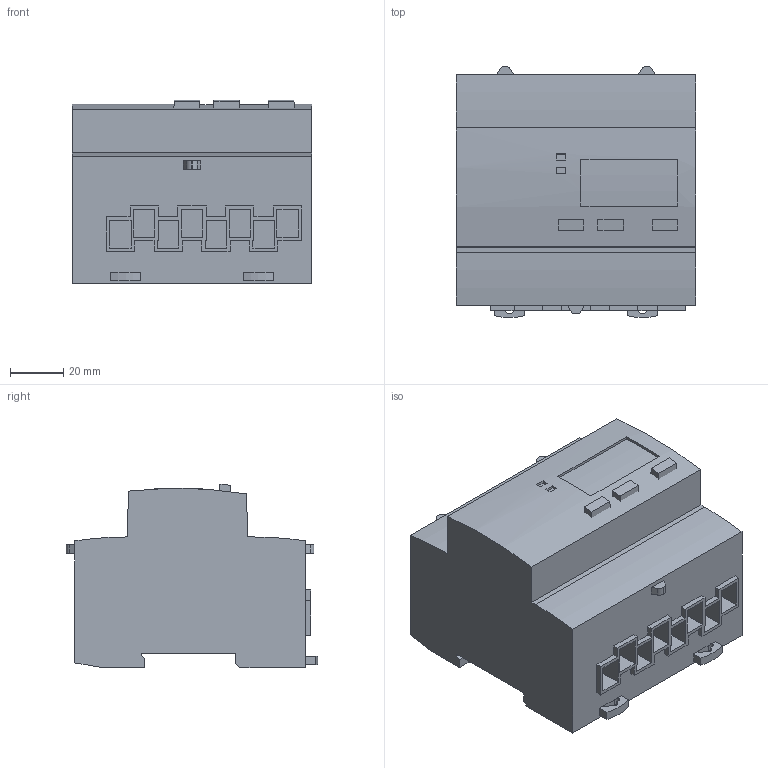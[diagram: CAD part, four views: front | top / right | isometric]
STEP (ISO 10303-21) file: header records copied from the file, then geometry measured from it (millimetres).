
FILE_DESCRIPTION((''),'2;1');
FILE_NAME('SB103707_3D-SIMPLIFIED_ASM','2011-10-17T',('quickadmin'),(''),'PRO/ENGINEER BY PARAMETRIC TECHNOLOGY CORPORATION, 2006170','PRO/ENGINEER BY PARAMETRIC TECHNOLOGY CORPORATION, 2006170','');
FILE_SCHEMA(('CONFIG_CONTROL_DESIGN'));
Length unit declared in the file: millimetre
Products named in the file (5): COQUE_3; CLIP; INTERRUPTEUR_02; PIECE_04; SB103707_3D-SIMPLIFIED_ASM
Assembly tree (5 placements, depth 2):
  SB103707_3D-SIMPLIFIED_ASM
    COQUE_3
    CLIP  x2
    INTERRUPTEUR_02
    PIECE_04
Bounding box: 90 x 94.6 x 69.17 mm (x, y, z)
Volume: 430002.4 mm3; surface area: 47663.5 mm2
Topology: 5 solids, 6 shells, 228 faces, 576 edges, 384 vertices
Faces by surface type: plane 208, cylinder 20
Entity records: 6523 total; most frequent: CARTESIAN_POINT 1136, ORIENTED_EDGE 1092, DIRECTION 1036, EDGE_CURVE 546, VECTOR 508, LINE 508, VERTEX_POINT 364, AXIS2_PLACEMENT_3D 264
